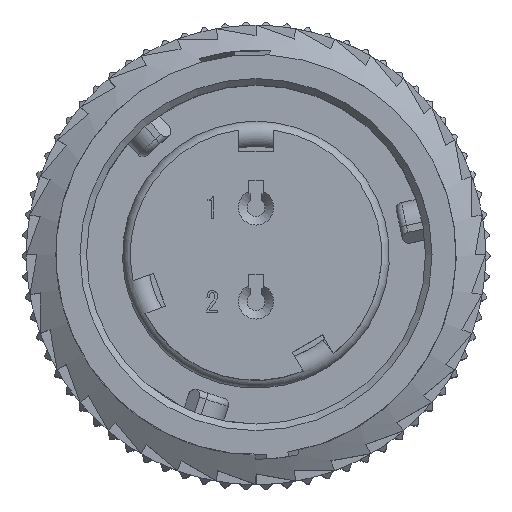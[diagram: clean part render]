
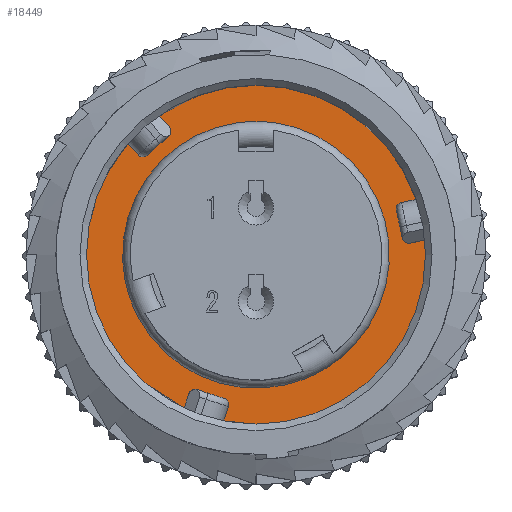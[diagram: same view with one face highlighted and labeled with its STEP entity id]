
A CAD part, top view. The second image highlights one B-rep face of the part: STEP entity #18449.
In plain terms, the highlighted planar face has unit normal (0, 0, 1).
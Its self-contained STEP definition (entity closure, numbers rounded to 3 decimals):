
#309 = CIRCLE ( 'NONE', #25583, 7.75 ) ;
#6186 = PLANE ( 'NONE',  #14546 ) ;
#6377 = DIRECTION ( 'NONE',  ( 0., 0., 1. ) ) ;
#7214 = CARTESIAN_POINT ( 'NONE',  ( -5.75, 0., -7.5 ) ) ;
#9679 = EDGE_CURVE ( 'NONE', #19352, #19352, #13835, .T. ) ;
#10834 = EDGE_CURVE ( 'NONE', #12205, #12205, #309, .T. ) ;
#11230 = FACE_OUTER_BOUND ( 'NONE', #28495, .T. ) ;
#12019 = CARTESIAN_POINT ( 'NONE',  ( 0., 0., -7.5 ) ) ;
#12205 = VERTEX_POINT ( 'NONE', #26031 ) ;
#13835 = CIRCLE ( 'NONE', #26471, 5.75 ) ;
#14312 = DIRECTION ( 'NONE',  ( -1., 0., 0. ) ) ;
#14546 = AXIS2_PLACEMENT_3D ( 'NONE', #22298, #30430, #14312 ) ;
#14733 = DIRECTION ( 'NONE',  ( -1., 0., 0. ) ) ;
#17854 = EDGE_LOOP ( 'NONE', ( #29701 ) ) ;
#18449 = ADVANCED_FACE ( 'NONE', ( #11230, #31875 ), #6186, .F. ) ;
#19352 = VERTEX_POINT ( 'NONE', #7214 ) ;
#22298 = CARTESIAN_POINT ( 'NONE',  ( -0.22, 0.46, -7.5 ) ) ;
#22489 = CARTESIAN_POINT ( 'NONE',  ( 0., 0., -7.5 ) ) ;
#25199 = DIRECTION ( 'NONE',  ( 1., 0., 0. ) ) ;
#25583 = AXIS2_PLACEMENT_3D ( 'NONE', #22489, #6377, #25199 ) ;
#26031 = CARTESIAN_POINT ( 'NONE',  ( 7.75, 0., -7.5 ) ) ;
#26471 = AXIS2_PLACEMENT_3D ( 'NONE', #12019, #30841, #14733 ) ;
#26612 = ORIENTED_EDGE ( 'NONE', *, *, #10834, .T. ) ;
#28495 = EDGE_LOOP ( 'NONE', ( #26612 ) ) ;
#29701 = ORIENTED_EDGE ( 'NONE', *, *, #9679, .T. ) ;
#30430 = DIRECTION ( 'NONE',  ( 0., 0., -1. ) ) ;
#30841 = DIRECTION ( 'NONE',  ( 0., 0., -1. ) ) ;
#31875 = FACE_BOUND ( 'NONE', #17854, .T. ) ;
